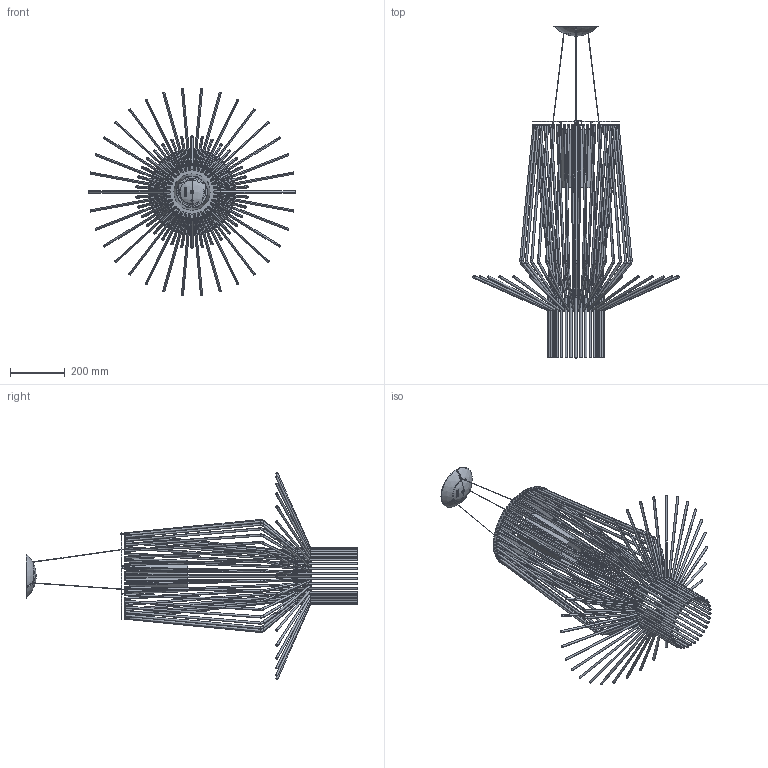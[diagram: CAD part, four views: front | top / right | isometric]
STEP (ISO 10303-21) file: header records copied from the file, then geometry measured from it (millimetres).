
FILE_DESCRIPTION (( 'STEP AP214' ), '1' );
FILE_NAME ('170_ASSAI_S_PL_3D.STEP', '2021-05-06T10:32:49', ( '' ), ( '' ), 'SwSTEP 2.0', 'SolidWorks 2021', '' );
FILE_SCHEMA (( 'AUTOMOTIVE_DESIGN' ));
Length unit declared in the file: millimetre
Products named in the file (1): 170_ASSAI_S_PL_3D
Bounding box: 758.94 x 1215.02 x 755.77 mm (x, y, z)
Volume: 3505125.8 mm3; surface area: 1995930.6 mm2
Topology: 79 solids, 79 shells, 2879 faces, 7020 edges, 4313 vertices
Faces by surface type: cylinder 1176, plane 563, bspline 409, torus 406, cone 306, sphere 19
Entity records: 153557 total; most frequent: CARTESIAN_POINT 54328, ORIENTED_EDGE 14040, DIRECTION 13950, EDGE_CURVE 7020, AXIS2_PLACEMENT_3D 5642, VERTEX_POINT 4313, CIRCLE 3171, EDGE_LOOP 3061
